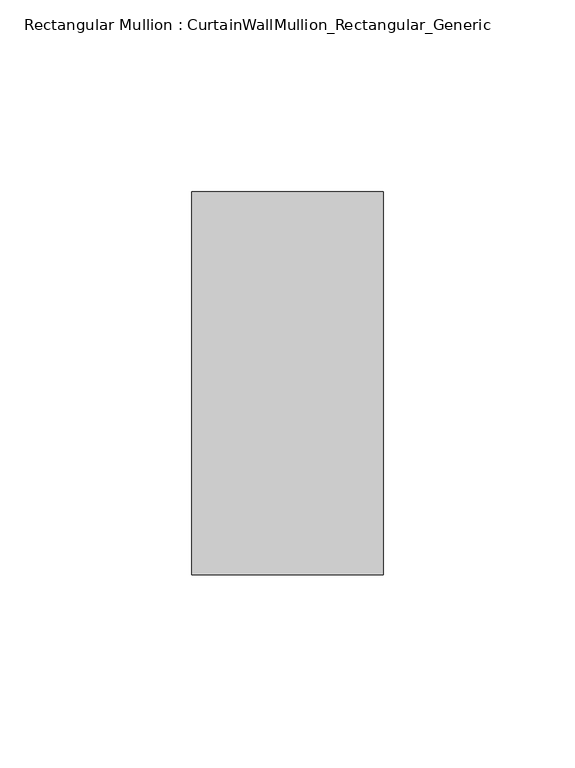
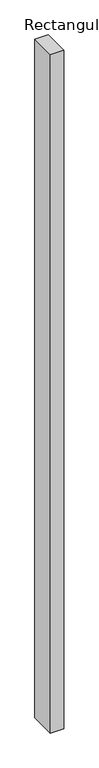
"""IFC4 building model written with IfcOpenShell, lengths in millimetres: member geometry, Rectangular Mullion : CurtainWallMullion_Rectangular_Generic."""

from ifc_helpers import new_model, si_unit, frame, origin, place, context, project, spatial, polyline, outline, extrude, source, transform, mapped, element, save


def rectangular_mullion_curtainwallmullion_rectangular_generic_bd817207(model_context):
    return source(origin(), model_context, "Body", "SweptSolid", [
        extrude(outline(polyline([(25.0, 50.0), (25.0, -50.0), (-25.0, -50.0), (-25.0, 50.0), (25.0, 50.0)])), frame((0.0, 0.0, -2664.6000002), z_axis=(0.0, 0.0, 1.0), x_axis=(1.0, 0.0, 0.0)), (0.0, 0.0, 1.0), 2664.6000002),
    ])


if __name__ == "__main__":
    model = new_model("IFC4")
    model_context = context("Model", 3, world=origin())
    ifc_project = project(units=[si_unit("LENGTHUNIT", "METRE", prefix="MILLI")], contexts=[model_context])
    site = spatial("IfcSite", under=ifc_project)
    building = spatial("IfcBuilding", under=site)
    placement = place(None, origin())
    rectangular_mullion_curtainwallmullion_rectangular_generic_shape = rectangular_mullion_curtainwallmullion_rectangular_generic_bd817207(model_context)
    element("IfcMember", 1, ObjectType="Rectangular Mullion : CurtainWallMullion_Rectangular_Generic", at=placement, inside=building, context=model_context, shape_type="MappedRepresentation", body=[
        mapped(rectangular_mullion_curtainwallmullion_rectangular_generic_shape, transform((0.0, 0.0, 0.0), x_axis=(1.0, 0.0, 0.0), y_axis=(0.0, 1.0, 0.0), z_axis=(0.0, 0.0, 1.0))),
    ])
    save(model, "model.ifc")
